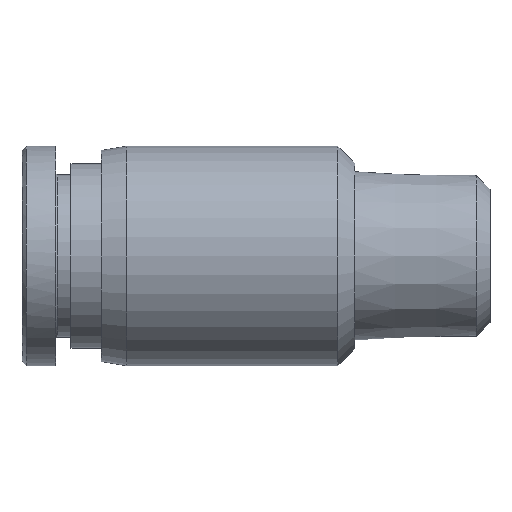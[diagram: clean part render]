
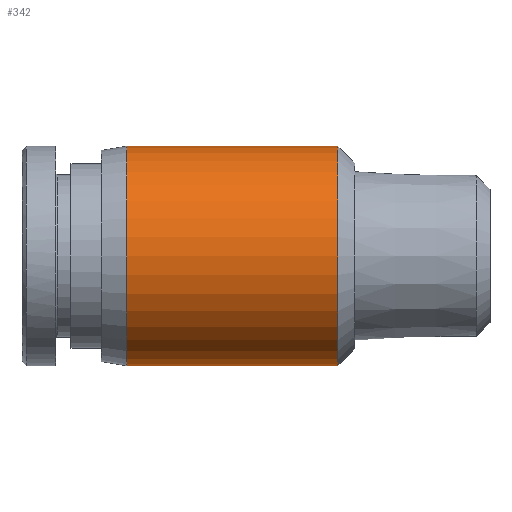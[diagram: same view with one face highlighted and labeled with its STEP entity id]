
A CAD part, front view. The second image highlights one B-rep face of the part: STEP entity #342.
In plain terms, the highlighted cylindrical face has radius 6.5 mm (diameter 13 mm), a full revolution.
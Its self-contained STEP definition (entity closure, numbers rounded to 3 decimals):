
#300=CARTESIAN_POINT('',(14.0,6.5,0.));
#301=VERTEX_POINT('',#300);
#302=CARTESIAN_POINT('',(14.0,0.,0.0));
#303=DIRECTION('',(1.0,0.0,0.0));
#304=DIRECTION('',(0.0,-1.0,0.0));
#305=AXIS2_PLACEMENT_3D('',#302,#303,#304);
#306=CIRCLE('',#305,6.5);
#307=EDGE_CURVE('',#301,#301,#306,.T.);
#323=CARTESIAN_POINT('',(8.25,0.,0.0));
#324=DIRECTION('',(1.0,0.,0.0));
#325=DIRECTION('',(0.0,1.0,0.0));
#326=AXIS2_PLACEMENT_3D('',#323,#324,#325);
#327=CYLINDRICAL_SURFACE('',#326,6.5);
#328=CARTESIAN_POINT('',(1.5,6.5,0.0));
#329=VERTEX_POINT('',#328);
#330=CARTESIAN_POINT('',(1.5,0.,0.0));
#331=DIRECTION('',(1.0,0.0,0.0));
#332=DIRECTION('',(0.0,1.0,0.0));
#333=AXIS2_PLACEMENT_3D('',#330,#331,#332);
#334=CIRCLE('',#333,6.5);
#335=EDGE_CURVE('',#329,#329,#334,.T.);
#336=ORIENTED_EDGE('',*,*,#335,.T.);
#337=EDGE_LOOP('',(#336));
#338=FACE_OUTER_BOUND('',#337,.T.);
#339=ORIENTED_EDGE('',*,*,#307,.F.);
#340=EDGE_LOOP('',(#339));
#341=FACE_BOUND('',#340,.T.);
#342=ADVANCED_FACE('',(#338,#341),#327,.T.);
